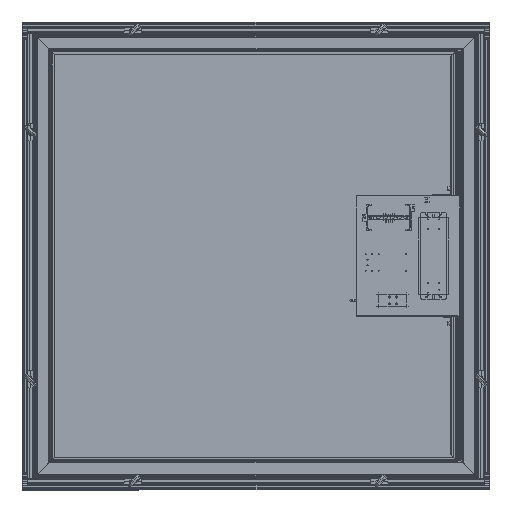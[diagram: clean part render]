
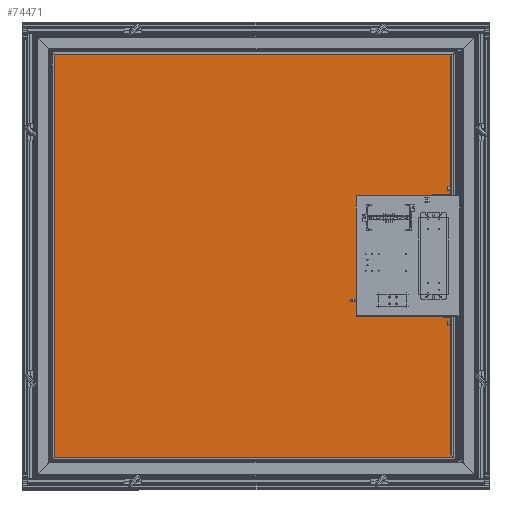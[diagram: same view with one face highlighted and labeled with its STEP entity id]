
A CAD part, top view. The second image highlights one B-rep face of the part: STEP entity #74471.
In plain terms, the highlighted planar face has unit normal (0, 0, 1) as drawn and (0, 0, -1) by its records, which use the part's own axes.
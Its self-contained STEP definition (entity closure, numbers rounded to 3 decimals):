
#536 = DIRECTION ( 'NONE',  ( -1., 0., 0. ) ) ;
#7089 = ORIENTED_EDGE ( 'NONE', *, *, #132979, .T. ) ;
#9492 = VERTEX_POINT ( 'NONE', #108850 ) ;
#10623 = CARTESIAN_POINT ( 'NONE',  ( -839.414, 1228.12, -150. ) ) ;
#12067 = LINE ( 'NONE', #39213, #155903 ) ;
#13055 = EDGE_LOOP ( 'NONE', ( #126467, #7089, #144807, #132441 ) ) ;
#13378 = EDGE_CURVE ( 'NONE', #42163, #143568, #162094, .T. ) ;
#24361 = CARTESIAN_POINT ( 'NONE',  ( 0., 0., -150. ) ) ;
#25276 = CARTESIAN_POINT ( 'NONE',  ( 351.186, 49.52, -150. ) ) ;
#26804 = DIRECTION ( 'NONE',  ( 0., 0., -1. ) ) ;
#33266 = LINE ( 'NONE', #118859, #108509 ) ;
#39213 = CARTESIAN_POINT ( 'NONE',  ( 351.186, 49.52, -150. ) ) ;
#42163 = VERTEX_POINT ( 'NONE', #57281 ) ;
#43202 = DIRECTION ( 'NONE',  ( 0., -1., 0. ) ) ;
#57281 = CARTESIAN_POINT ( 'NONE',  ( -839.414, 49.52, -150. ) ) ;
#63839 = PLANE ( 'NONE',  #127525 ) ;
#74471 = ADVANCED_FACE ( 'NONE', ( #101702 ), #63839, .T. ) ;
#75203 = EDGE_CURVE ( 'NONE', #143568, #9492, #98671, .T. ) ;
#98671 = LINE ( 'NONE', #111810, #148727 ) ;
#101702 = FACE_OUTER_BOUND ( 'NONE', #13055, .T. ) ;
#108509 = VECTOR ( 'NONE', #43202, 1000. ) ;
#108850 = CARTESIAN_POINT ( 'NONE',  ( 351.186, 1228.12, -150. ) ) ;
#111810 = CARTESIAN_POINT ( 'NONE',  ( 351.186, 1228.12, -150. ) ) ;
#112342 = VECTOR ( 'NONE', #159641, 1000. ) ;
#114023 = DIRECTION ( 'NONE',  ( -1., 0., 0. ) ) ;
#118859 = CARTESIAN_POINT ( 'NONE',  ( 351.186, 1228.12, -150. ) ) ;
#118889 = VERTEX_POINT ( 'NONE', #25276 ) ;
#122514 = DIRECTION ( 'NONE',  ( 1., 0., 0. ) ) ;
#126467 = ORIENTED_EDGE ( 'NONE', *, *, #132591, .T. ) ;
#127525 = AXIS2_PLACEMENT_3D ( 'NONE', #24361, #26804, #114023 ) ;
#132441 = ORIENTED_EDGE ( 'NONE', *, *, #75203, .T. ) ;
#132591 = EDGE_CURVE ( 'NONE', #9492, #118889, #33266, .T. ) ;
#132979 = EDGE_CURVE ( 'NONE', #118889, #42163, #12067, .T. ) ;
#143568 = VERTEX_POINT ( 'NONE', #150461 ) ;
#144807 = ORIENTED_EDGE ( 'NONE', *, *, #13378, .T. ) ;
#148727 = VECTOR ( 'NONE', #122514, 1000. ) ;
#150461 = CARTESIAN_POINT ( 'NONE',  ( -839.414, 1228.12, -150. ) ) ;
#155903 = VECTOR ( 'NONE', #536, 1000. ) ;
#159641 = DIRECTION ( 'NONE',  ( 0., 1., 0. ) ) ;
#162094 = LINE ( 'NONE', #10623, #112342 ) ;
